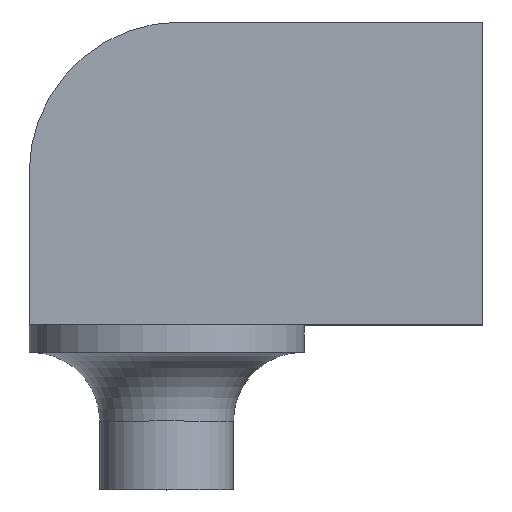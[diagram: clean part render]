
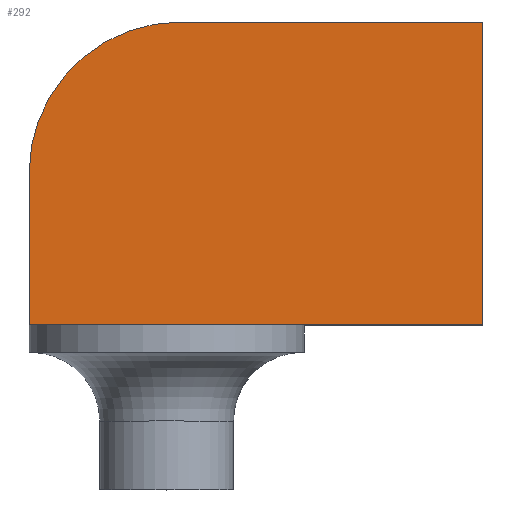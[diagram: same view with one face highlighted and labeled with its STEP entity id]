
A CAD part, top view. The second image highlights one B-rep face of the part: STEP entity #292.
In plain terms, the highlighted planar face has unit normal (0, 0, 1).
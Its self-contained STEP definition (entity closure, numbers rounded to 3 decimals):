
#1 = CARTESIAN_POINT ( 'NONE',  ( 16.5, -11., 20. ) ) ;
#6 = VERTEX_POINT ( 'NONE', #230 ) ;
#24 = DIRECTION ( 'NONE',  ( 0., 0., 1. ) ) ;
#40 = VERTEX_POINT ( 'NONE', #57 ) ;
#51 = CARTESIAN_POINT ( 'NONE',  ( -5.5, 0., 20. ) ) ;
#52 = EDGE_CURVE ( 'NONE', #40, #123, #216, .T. ) ;
#57 = CARTESIAN_POINT ( 'NONE',  ( 16.5, -11., 20. ) ) ;
#61 = LINE ( 'NONE', #427, #187 ) ;
#67 = CARTESIAN_POINT ( 'NONE',  ( 16.5, 11., 20. ) ) ;
#77 = DIRECTION ( 'NONE',  ( 0., 0., 1. ) ) ;
#103 = DIRECTION ( 'NONE',  ( -1., 0., 0. ) ) ;
#122 = DIRECTION ( 'NONE',  ( 1., 0., 0. ) ) ;
#123 = VERTEX_POINT ( 'NONE', #234 ) ;
#130 = VECTOR ( 'NONE', #488, 1000. ) ;
#146 = EDGE_CURVE ( 'NONE', #456, #40, #61, .T. ) ;
#147 = DIRECTION ( 'NONE',  ( 1., 0., 0. ) ) ;
#153 = ORIENTED_EDGE ( 'NONE', *, *, #313, .T. ) ;
#156 = DIRECTION ( 'NONE',  ( 0., -1., 0. ) ) ;
#160 = PLANE ( 'NONE',  #402 ) ;
#172 = CARTESIAN_POINT ( 'NONE',  ( -16.5, 0., 20. ) ) ;
#178 = VERTEX_POINT ( 'NONE', #274 ) ;
#183 = CARTESIAN_POINT ( 'NONE',  ( -6.5, -11., 20. ) ) ;
#187 = VECTOR ( 'NONE', #147, 1000. ) ;
#207 = EDGE_CURVE ( 'NONE', #351, #178, #403, .T. ) ;
#216 = LINE ( 'NONE', #495, #130 ) ;
#227 = ORIENTED_EDGE ( 'NONE', *, *, #363, .T. ) ;
#230 = CARTESIAN_POINT ( 'NONE',  ( -5.5, 11., 20. ) ) ;
#234 = CARTESIAN_POINT ( 'NONE',  ( 16.5, 11., 20. ) ) ;
#255 = ORIENTED_EDGE ( 'NONE', *, *, #146, .T. ) ;
#261 = ORIENTED_EDGE ( 'NONE', *, *, #434, .T. ) ;
#274 = CARTESIAN_POINT ( 'NONE',  ( -16.5, -11., 20. ) ) ;
#292 = ADVANCED_FACE ( 'NONE', ( #358 ), #160, .T. ) ;
#309 = VECTOR ( 'NONE', #103, 1000. ) ;
#313 = EDGE_CURVE ( 'NONE', #178, #456, #437, .T. ) ;
#316 = CARTESIAN_POINT ( 'NONE',  ( 0., 0., 20. ) ) ;
#351 = VERTEX_POINT ( 'NONE', #172 ) ;
#357 = DIRECTION ( 'NONE',  ( 1., 0., 0. ) ) ;
#358 = FACE_OUTER_BOUND ( 'NONE', #410, .T. ) ;
#363 = EDGE_CURVE ( 'NONE', #6, #351, #393, .T. ) ;
#365 = ORIENTED_EDGE ( 'NONE', *, *, #52, .T. ) ;
#393 = CIRCLE ( 'NONE', #494, 11. ) ;
#399 = LINE ( 'NONE', #67, #309 ) ;
#402 = AXIS2_PLACEMENT_3D ( 'NONE', #316, #77, #357 ) ;
#403 = LINE ( 'NONE', #501, #497 ) ;
#410 = EDGE_LOOP ( 'NONE', ( #261, #227, #443, #153, #255, #365 ) ) ;
#417 = VECTOR ( 'NONE', #122, 1000. ) ;
#427 = CARTESIAN_POINT ( 'NONE',  ( 16.5, -11., 20. ) ) ;
#434 = EDGE_CURVE ( 'NONE', #123, #6, #399, .T. ) ;
#437 = LINE ( 'NONE', #1, #417 ) ;
#443 = ORIENTED_EDGE ( 'NONE', *, *, #207, .T. ) ;
#456 = VERTEX_POINT ( 'NONE', #183 ) ;
#487 = DIRECTION ( 'NONE',  ( 1., 0., 0. ) ) ;
#488 = DIRECTION ( 'NONE',  ( 0., 1., 0. ) ) ;
#494 = AXIS2_PLACEMENT_3D ( 'NONE', #51, #24, #487 ) ;
#495 = CARTESIAN_POINT ( 'NONE',  ( 16.5, -11., 20. ) ) ;
#497 = VECTOR ( 'NONE', #156, 1000. ) ;
#501 = CARTESIAN_POINT ( 'NONE',  ( -16.5, -11., 20. ) ) ;
